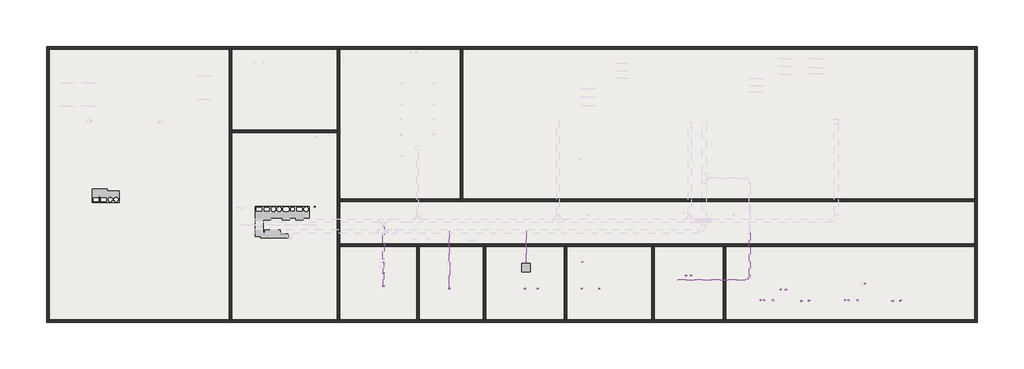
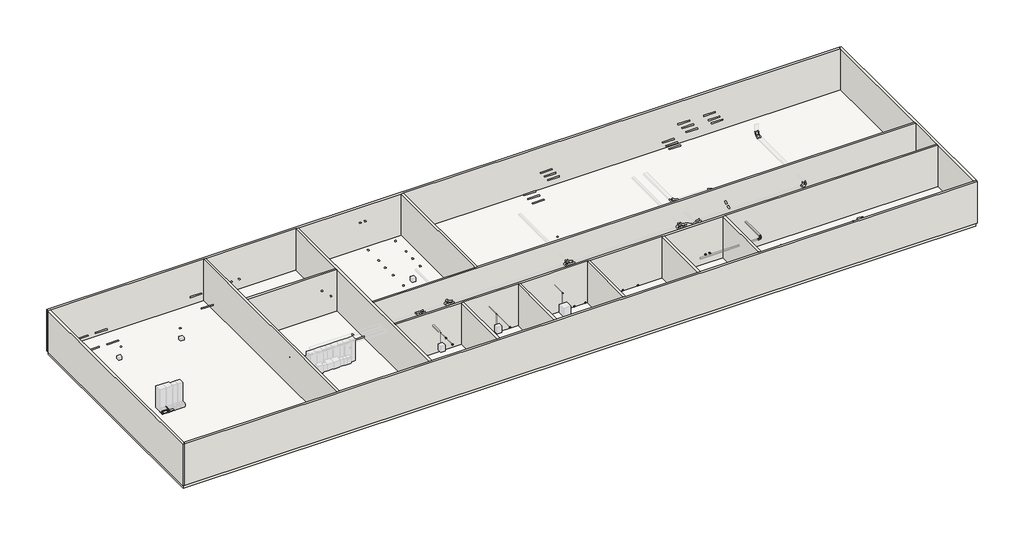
# One storey, part 1 of 3: 20 proxies, 15 walls, 13 cable carrier segments, 8 light fixtures, 6 cable carrier fittings, 2 slabs.
"""IFC4 building model written with IfcOpenShell, lengths in millimetres."""

from ifc_helpers import new_model, si_unit, point, frame, frame_2d, origin, origin_with_axes, place, context, project, spatial, polyline, circle_curve, trimmed, segment, composite_curve, outline, extrude, faceted_brep, transform, mapped, element, save
from components import electrical_fixtures_ff56aada, electrical_equipment_4f19a133, electrical_equipment_901cc76d, electrical_equipment_40f9489f, electrical_equipment_e4ef6d0d, cable_carrier_fitting_fe952dc1, cable_carrier_fitting_148b5de3, cable_carrier_fitting_304708ae, light_fixture_c5f3bd1a

model = new_model("IFC4")

# Units and contexts
model_context = context("Model", 3, world=origin())
ifc_project = project(units=[si_unit("LENGTHUNIT", "METRE", prefix="MILLI")], contexts=[model_context])

# Site, building, storey
site = spatial("IfcSite", under=ifc_project)
building = spatial("IfcBuilding", under=site)
storey = spatial("IfcBuildingStorey", under=building, Name="Координационный план", Elevation=0.0)

# Proxies
placement = place(None, origin())
electrical_fixtures_shape = electrical_fixtures_ff56aada(model_context)
element("IfcBuildingElementProxy", 1, Name="mS_EF_НГ_электроприбор : mS_EF_НГ_электроприбор", ObjectType="mS_EF_НГ_электроприбор : mS_EF_НГ_электроприбор", at=placement, inside=storey, context=model_context, shape_type="MappedRepresentation", body=[
    mapped(electrical_fixtures_shape, transform((11927.4238515, -3511.4109603, 2759.3582254), x_axis=(1.0, 0.0, 0.0), y_axis=(0.0, 1.0, 0.0), z_axis=(0.0, 0.0, 1.0))),
])
element("IfcBuildingElementProxy", 2, Name="mS_EF_НГ_электроприбор : mS_EF_НГ_электроприбор", ObjectType="mS_EF_НГ_электроприбор : mS_EF_НГ_электроприбор", at=placement, inside=storey, context=model_context, shape_type="MappedRepresentation", body=[
    mapped(electrical_fixtures_shape, transform((27368.0357375, -3709.1766246, 2712.088133), x_axis=(1.0, 0.0, 0.0), y_axis=(0.0, 1.0, 0.0), z_axis=(0.0, 0.0, 1.0))),
])
element("IfcBuildingElementProxy", 3, Name="mS_EF_НГ_электроприбор : mS_EF_НГ_электроприбор", ObjectType="mS_EF_НГ_электроприбор : mS_EF_НГ_электроприбор", at=placement, inside=storey, context=model_context, shape_type="MappedRepresentation", body=[
    mapped(electrical_fixtures_shape, transform((28728.1209837, -3709.1766246, 2712.088133), x_axis=(1.0, 0.0, 0.0), y_axis=(0.0, 1.0, 0.0), z_axis=(0.0, 0.0, 1.0))),
])
element("IfcBuildingElementProxy", 4, Name="mS_EF_НГ_электроприбор : mS_EF_НГ_электроприбор", ObjectType="mS_EF_НГ_электроприбор : mS_EF_НГ_электроприбор", at=placement, inside=storey, context=model_context, shape_type="MappedRepresentation", body=[
    mapped(electrical_fixtures_shape, transform((22938.0357375, -3709.1766246, 2712.088133), x_axis=(1.0, 0.0, 0.0), y_axis=(0.0, 1.0, 0.0), z_axis=(0.0, 0.0, 1.0))),
])
element("IfcBuildingElementProxy", 5, Name="mS_EF_НГ_электроприбор : mS_EF_НГ_электроприбор", ObjectType="mS_EF_НГ_электроприбор : mS_EF_НГ_электроприбор", at=placement, inside=storey, context=model_context, shape_type="MappedRepresentation", body=[
    mapped(electrical_fixtures_shape, transform((23938.0357375, -3709.1766246, 2712.088133), x_axis=(1.0, 0.0, 0.0), y_axis=(0.0, 1.0, 0.0), z_axis=(0.0, 0.0, 1.0))),
])
element("IfcBuildingElementProxy", 6, Name="mS_EF_НГ_электроприбор : mS_EF_НГ_электроприбор", ObjectType="mS_EF_НГ_электроприбор : mS_EF_НГ_электроприбор", at=placement, inside=storey, context=model_context, shape_type="MappedRepresentation", body=[
    mapped(electrical_fixtures_shape, transform((35478.7265783, -2689.4544344, 2700.0), x_axis=(1.0, 0.0, 0.0), y_axis=(0.0, 1.0, 0.0), z_axis=(0.0, 0.0, 1.0))),
])
element("IfcBuildingElementProxy", 7, Name="mS_EF_НГ_электроприбор : mS_EF_НГ_электроприбор", ObjectType="mS_EF_НГ_электроприбор : mS_EF_НГ_электроприбор", at=placement, inside=storey, context=model_context, shape_type="MappedRepresentation", body=[
    mapped(electrical_fixtures_shape, transform((35871.8542053, -2689.4544344, 2700.0), x_axis=(1.0, 0.0, 0.0), y_axis=(0.0, 1.0, 0.0), z_axis=(0.0, 0.0, 1.0))),
])
electrical_equipment_shape = electrical_equipment_4f19a133(model_context)
element("IfcBuildingElementProxy", 8, Name="▲EE_Уголок_стальной : 50х50х5_мм", ObjectType="▲EE_Уголок_стальной : 50х50х5_мм", at=placement, inside=storey, context=model_context, shape_type="MappedRepresentation", body=[
    mapped(electrical_equipment_shape, transform((-10774.8851164, 3459.0275541, 0.0), x_axis=(1.0, 0.0, 0.0), y_axis=(0.0, 1.0, 0.0), z_axis=(0.0, 0.0, 1.0))),
])
element("IfcBuildingElementProxy", 9, Name="▲EE_Уголок_стальной : 50х50х5_мм", ObjectType="▲EE_Уголок_стальной : 50х50х5_мм", at=placement, inside=storey, context=model_context, shape_type="MappedRepresentation", body=[
    mapped(electrical_equipment_shape, transform((-10624.8851164, 3009.0275541, 0.0), x_axis=(0.0, 1.0, 0.0), y_axis=(-1.0, 0.0, 0.0), z_axis=(0.0, 0.0, 1.0))),
])
electrical_equipment_2_shape = electrical_equipment_901cc76d(model_context)
element("IfcBuildingElementProxy", 10, Name="▲EE_Уголок_стальной : 50х50х5_мм", ObjectType="▲EE_Уголок_стальной : 50х50х5_мм", at=placement, inside=storey, context=model_context, shape_type="MappedRepresentation", body=[
    mapped(electrical_equipment_2_shape, transform((-10174.8851164, 3459.0275541, -150.0), x_axis=(-1.0, 0.0, 0.0), y_axis=(0.0, 0.0, -1.0), z_axis=(0.0, -1.0, 0.0))),
])
electrical_equipment_3_shape = electrical_equipment_40f9489f(model_context)
element("IfcBuildingElementProxy", 11, Name="▲EE_Уголок_стальной : 50х50х5_мм", ObjectType="▲EE_Уголок_стальной : 50х50х5_мм", at=placement, inside=storey, context=model_context, shape_type="MappedRepresentation", body=[
    mapped(electrical_equipment_3_shape, transform((-10774.8851164, 3009.0275541, 450.0), x_axis=(0.0, 1.0, 0.0), y_axis=(0.0, 0.0, 1.0), z_axis=(1.0, 0.0, 0.0))),
])
element("IfcBuildingElementProxy", 12, Name="▲EE_Уголок_стальной : 50х50х5_мм", ObjectType="▲EE_Уголок_стальной : 50х50х5_мм", at=placement, inside=storey, context=model_context, shape_type="MappedRepresentation", body=[
    mapped(electrical_equipment_3_shape, transform((-10774.8851164, 3459.0275541, 300.0), x_axis=(0.0, 0.0, -1.0), y_axis=(0.0, 1.0, 0.0), z_axis=(1.0, 0.0, 0.0))),
])
electrical_equipment_4_shape = electrical_equipment_e4ef6d0d(model_context)
element("IfcBuildingElementProxy", 13, Name="mS_EE_НГ_транзит : mS_EE_НГ_транзит", ObjectType="mS_EE_НГ_транзит : mS_EE_НГ_транзит", at=placement, inside=storey, context=model_context, shape_type="MappedRepresentation", body=[
    mapped(electrical_equipment_4_shape, transform((11927.4238515, -2489.9109603, 2784.3582254), x_axis=(1.0, 0.0, 0.0), y_axis=(0.0, 1.0, 0.0), z_axis=(0.0, 0.0, 1.0))),
])
element("IfcBuildingElementProxy", 14, Name="mS_EE_НГ_транзит : mS_EE_НГ_транзит", ObjectType="mS_EE_НГ_транзит : mS_EE_НГ_транзит", at=placement, inside=storey, context=model_context, shape_type="MappedRepresentation", body=[
    mapped(electrical_equipment_4_shape, transform((27407.4238515, -1629.9109603, 1800.0), x_axis=(-1.0, 0.0, 0.0), y_axis=(0.0, -1.0, 0.0), z_axis=(0.0, 0.0, 1.0))),
])
element("IfcBuildingElementProxy", 15, Name="mS_EF_НГ_электроприбор : mS_EF_НГ_электроприбор", ObjectType="mS_EF_НГ_электроприбор : mS_EF_НГ_электроприбор", at=placement, inside=storey, context=model_context, shape_type="MappedRepresentation", body=[
    mapped(electrical_fixtures_shape, transform((17058.0357375, -3711.3000564, 2739.1068779), x_axis=(1.0, 0.0, 0.0), y_axis=(0.0, 1.0, 0.0), z_axis=(0.0, 0.0, 1.0))),
])
element("IfcBuildingElementProxy", 16, Name="mS_EF_НГ_электроприбор : mS_EF_НГ_электроприбор", ObjectType="mS_EF_НГ_электроприбор : mS_EF_НГ_электроприбор", at=placement, inside=storey, context=model_context, shape_type="MappedRepresentation", body=[
    mapped(electrical_fixtures_shape, transform((41263.4826037, -4621.0432433, 2739.1068779), x_axis=(1.0, 0.0, 0.0), y_axis=(0.0, 1.0, 0.0), z_axis=(0.0, 0.0, 1.0))),
])
element("IfcBuildingElementProxy", 17, Name="mS_EF_НГ_электроприбор : mS_EF_НГ_электроприбор", ObjectType="mS_EF_НГ_электроприбор : mS_EF_НГ_электроприбор", at=placement, inside=storey, context=model_context, shape_type="MappedRepresentation", body=[
    mapped(electrical_fixtures_shape, transform((49420.4563703, -3313.3689698, 1764.4022853), x_axis=(1.0, 0.0, 0.0), y_axis=(0.0, 1.0, 0.0), z_axis=(0.0, 0.0, 1.0))),
])
element("IfcBuildingElementProxy", 18, Name="mS_EE_НГ_транзит : mS_EE_НГ_транзит", ObjectType="mS_EE_НГ_транзит : mS_EE_НГ_транзит", at=placement, inside=storey, context=model_context, shape_type="MappedRepresentation", body=[
    mapped(electrical_equipment_4_shape, transform((42863.4826037, -3783.3689698, 1800.0), x_axis=(-1.0, 0.0, 0.0), y_axis=(0.0, -1.0, 0.0), z_axis=(0.0, 0.0, 1.0))),
])
element("IfcBuildingElementProxy", 19, Name="mS_EE_НГ_транзит : mS_EE_НГ_транзит", ObjectType="mS_EE_НГ_транзит : mS_EE_НГ_транзит", at=placement, inside=storey, context=model_context, shape_type="MappedRepresentation", body=[
    mapped(electrical_equipment_4_shape, transform((43263.4826037, -3783.3689698, 1800.0), x_axis=(-1.0, 0.0, 0.0), y_axis=(0.0, -1.0, 0.0), z_axis=(0.0, 0.0, 1.0))),
])
element("IfcBuildingElementProxy", 20, Name="mS_EF_НГ_электроприбор : mS_EF_НГ_электроприбор", ObjectType="mS_EF_НГ_электроприбор : mS_EF_НГ_электроприбор", at=placement, inside=storey, context=model_context, shape_type="MappedRepresentation", body=[
    mapped(electrical_fixtures_shape, transform((47844.3312399, -4621.0432433, 2739.1068779), x_axis=(1.0, 0.0, 0.0), y_axis=(0.0, 1.0, 0.0), z_axis=(0.0, 0.0, 1.0))),
])

# Cable carrier fittings
cable_carrier_fitting_shape = cable_carrier_fitting_fe952dc1(model_context)
element("IfcCableCarrierFitting", 21, ObjectType="ADSK_Поворот_Минимальный размер : Неспецифицируемый", at=placement, inside=storey, context=model_context, shape_type="MappedRepresentation", body=[
    mapped(cable_carrier_fitting_shape, transform((17047.4238515, -1567.8177703, 2750.0), x_axis=(0.0, 0.0, 1.0), y_axis=(0.0, 1.0, 0.0), z_axis=(-1.0, 0.0, 0.0))),
])
element("IfcCableCarrierFitting", 22, ObjectType="ADSK_Поворот_Минимальный размер : Неспецифицируемый", at=placement, inside=storey, context=model_context, shape_type="MappedRepresentation", body=[
    mapped(cable_carrier_fitting_shape, transform((23031.9, -1614.91, 2731.025), x_axis=(0.0, 0.0, 1.0), y_axis=(0.0, 1.0, 0.0), z_axis=(-1.0, 0.0, 0.0))),
])
cable_carrier_fitting_2_shape = cable_carrier_fitting_148b5de3(model_context)
element("IfcCableCarrierFitting", 23, ObjectType="ADSK_Поворот_Минимальный размер : Неспецифицируемый", at=placement, inside=storey, context=model_context, shape_type="MappedRepresentation", body=[
    mapped(cable_carrier_fitting_2_shape, transform((17058.0357375, -1667.1653132, 2739.1068779), x_axis=(0.0, 1.0, 0.0), y_axis=(0.0, 0.0, -1.0), z_axis=(-1.0, 0.0, 0.0))),
])
element("IfcCableCarrierFitting", 24, ObjectType="ADSK_Поворот_Минимальный размер : Неспецифицируемый", at=placement, inside=storey, context=model_context, shape_type="MappedRepresentation", body=[
    mapped(cable_carrier_fitting_2_shape, transform((23038.0357375, -1692.119439, 2712.088133), x_axis=(0.0, 1.0, 0.0), y_axis=(0.0, 0.0, -1.0), z_axis=(-1.0, 0.0, 0.0))),
])
element("IfcCableCarrierFitting", 25, ObjectType="ADSK_Поворот_Минимальный размер : Неспецифицируемый", at=placement, inside=storey, context=model_context, shape_type="MappedRepresentation", body=[
    mapped(cable_carrier_fitting_2_shape, transform((11927.4238515, -1640.6183302, 2759.3582254), x_axis=(0.0, 1.0, 0.0), y_axis=(0.0, 0.0, -1.0), z_axis=(-1.0, 0.0, 0.0))),
])
cable_carrier_fitting_3_shape = cable_carrier_fitting_304708ae(model_context)
element("IfcCableCarrierFitting", 26, ObjectType="ADSK_Поворот горизонтальный_Лестничный лоток : Радиус 300 мм", at=placement, inside=storey, context=model_context, shape_type="MappedRepresentation", body=[
    mapped(cable_carrier_fitting_3_shape, transform((40449.7612457, -3035.4746616, 2750.0), x_axis=(1.0, 0.0, 0.0), y_axis=(0.0, 1.0, 0.0), z_axis=(0.0, 0.0, 1.0))),
])

# Cable carrier segments
element("IfcCableCarrierSegment", 27, ObjectType="ADSK_Перфорированный кабельный лоток", at=placement, inside=storey, context=model_context, shape_type="SweptSolid", body=[
    extrude(outline(polyline([(11873.8206275, 1125.0), (11973.8206275, 1125.0), (11973.8206275, -1454.911068), (11873.8206275, -1454.911068), (11873.8206275, 1125.0)])), frame((0.0, 0.0, 2700.0), z_axis=(0.0, 0.0, 1.0), x_axis=(1.0, 0.0, 0.0)), (0.0, 0.0, 1.0), 100.0),
])
element("IfcCableCarrierSegment", 28, ObjectType="ADSK_Гладкая труба_ПВХ_Легкая", at=placement, inside=storey, context=model_context, shape_type="SweptSolid", body=[
    extrude(outline(composite_curve([segment(trimmed(circle_curve(frame_2d((2750.0, 17047.4238515)), 12.5), [point((2750.0, 17059.9238515))], [point((2762.5, 17047.4238515))], False, "CARTESIAN"), True, "CONTINUOUS"), segment(trimmed(circle_curve(frame_2d((2750.0, 17047.4238515)), 12.5), [point((2762.5, 17047.4238515))], [point((2750.0, 17034.9238515))], False, "CARTESIAN"), True, "CONTINUOUS"), segment(trimmed(circle_curve(frame_2d((2750.0, 17047.4238515)), 12.5), [point((2750.0, 17034.9238515))], [point((2737.5, 17047.4238515))], False, "CARTESIAN"), True, "CONTINUOUS"), segment(trimmed(circle_curve(frame_2d((2750.0, 17047.4238515)), 12.5), [point((2737.5, 17047.4238515))], [point((2750.0, 17059.9238515))], False, "CARTESIAN"), True, "CONTINUOUS")], self_intersect=False)), frame((0.0, -1551.1427703, 0.0), z_axis=(0.0, 1.0, 0.0), x_axis=(0.0, 0.0, 1.0)), (0.0, 0.0, 1.0), 2318.325),
])
element("IfcCableCarrierSegment", 29, ObjectType="ADSK_Гладкая труба_ПВХ_Легкая", at=placement, inside=storey, context=model_context, shape_type="SweptSolid", body=[
    extrude(outline(composite_curve([segment(trimmed(circle_curve(frame_2d((17047.4238515, -1567.8177703)), 12.5), [point((17034.9238515, -1567.8177703))], [point((17047.4238515, -1555.3177703))], False, "CARTESIAN"), True, "CONTINUOUS"), segment(trimmed(circle_curve(frame_2d((17047.4238515, -1567.8177703)), 12.5), [point((17047.4238515, -1555.3177703))], [point((17059.9238515, -1567.8177703))], False, "CARTESIAN"), True, "CONTINUOUS"), segment(trimmed(circle_curve(frame_2d((17047.4238515, -1567.8177703)), 12.5), [point((17059.9238515, -1567.8177703))], [point((17047.4238515, -1580.3177703))], False, "CARTESIAN"), True, "CONTINUOUS"), segment(trimmed(circle_curve(frame_2d((17047.4238515, -1567.8177703)), 12.5), [point((17047.4238515, -1580.3177703))], [point((17034.9238515, -1567.8177703))], False, "CARTESIAN"), True, "CONTINUOUS")], self_intersect=False)), frame((0.0, 0.0, 1800.0), z_axis=(0.0, 0.0, 1.0), x_axis=(1.0, 0.0, 0.0)), (0.0, 0.0, 1.0), 933.325),
])
element("IfcCableCarrierSegment", 30, ObjectType="ADSK_Гладкая труба_ПВХ_Легкая", at=placement, inside=storey, context=model_context, shape_type="SweptSolid", body=[
    extrude(outline(composite_curve([segment(trimmed(circle_curve(frame_2d((23031.9, -1614.91)), 12.5), [point((23044.4, -1614.91))], [point((23031.9, -1627.41))], False, "CARTESIAN"), True, "CONTINUOUS"), segment(trimmed(circle_curve(frame_2d((23031.9, -1614.91)), 12.5), [point((23031.9, -1627.41))], [point((23019.4, -1614.91))], False, "CARTESIAN"), True, "CONTINUOUS"), segment(trimmed(circle_curve(frame_2d((23031.9, -1614.91)), 12.5), [point((23019.4, -1614.91))], [point((23031.9, -1602.41))], False, "CARTESIAN"), True, "CONTINUOUS"), segment(trimmed(circle_curve(frame_2d((23031.9, -1614.91)), 12.5), [point((23031.9, -1602.41))], [point((23044.4, -1614.91))], False, "CARTESIAN"), True, "CONTINUOUS")], self_intersect=False)), frame((0.0, 0.0, 1800.0), z_axis=(0.0, 0.0, 1.0), x_axis=(1.0, 0.0, 0.0)), (0.0, 0.0, 1.0), 914.35),
])
element("IfcCableCarrierSegment", 31, ObjectType="ADSK_Гладкая труба_ПВХ_Легкая", at=placement, inside=storey, context=model_context, shape_type="SweptSolid", body=[
    extrude(outline(composite_curve([segment(trimmed(circle_curve(frame_2d((2731.025, 23031.9)), 12.5), [point((2731.025, 23044.4))], [point((2743.525, 23031.9))], False, "CARTESIAN"), True, "CONTINUOUS"), segment(trimmed(circle_curve(frame_2d((2731.025, 23031.9)), 12.5), [point((2743.525, 23031.9))], [point((2731.025, 23019.4))], False, "CARTESIAN"), True, "CONTINUOUS"), segment(trimmed(circle_curve(frame_2d((2731.025, 23031.9)), 12.5), [point((2731.025, 23019.4))], [point((2718.525, 23031.9))], False, "CARTESIAN"), True, "CONTINUOUS"), segment(trimmed(circle_curve(frame_2d((2731.025, 23031.9)), 12.5), [point((2718.525, 23031.9))], [point((2731.025, 23044.4))], False, "CARTESIAN"), True, "CONTINUOUS")], self_intersect=False)), frame((0.0, -1598.235, 0.0), z_axis=(0.0, 1.0, 0.0), x_axis=(0.0, 0.0, 1.0)), (0.0, 0.0, 1.0), 2365.4172297),
])
element("IfcCableCarrierSegment", 32, ObjectType="ADSK_Гладкая труба_ПВХ_Легкая", at=placement, inside=storey, context=model_context, shape_type="SweptSolid", body=[
    extrude(outline(composite_curve([segment(trimmed(circle_curve(frame_2d((2739.1068779, 17058.0357375)), 10.0), [point((2739.1068779, 17068.0357375))], [point((2749.1068779, 17058.0357375))], False, "CARTESIAN"), True, "CONTINUOUS"), segment(trimmed(circle_curve(frame_2d((2739.1068779, 17058.0357375)), 10.0), [point((2749.1068779, 17058.0357375))], [point((2739.1068779, 17048.0357375))], False, "CARTESIAN"), True, "CONTINUOUS"), segment(trimmed(circle_curve(frame_2d((2739.1068779, 17058.0357375)), 10.0), [point((2739.1068779, 17048.0357375))], [point((2729.1068779, 17058.0357375))], False, "CARTESIAN"), True, "CONTINUOUS"), segment(trimmed(circle_curve(frame_2d((2739.1068779, 17058.0357375)), 10.0), [point((2729.1068779, 17058.0357375))], [point((2739.1068779, 17068.0357375))], False, "CARTESIAN"), True, "CONTINUOUS")], self_intersect=False)), frame((0.0, -3661.3000564, 0.0), z_axis=(0.0, 1.0, 0.0), x_axis=(0.0, 0.0, 1.0)), (0.0, 0.0, 1.0), 1979.9597432),
])
element("IfcCableCarrierSegment", 33, ObjectType="ADSK_Гладкая труба_ПВХ_Легкая", at=placement, inside=storey, context=model_context, shape_type="SweptSolid", body=[
    extrude(outline(composite_curve([segment(trimmed(circle_curve(frame_2d((17058.0357375, -1667.1653132)), 10.0), [point((17048.0357375, -1667.1653132))], [point((17058.0357375, -1657.1653132))], False, "CARTESIAN"), True, "CONTINUOUS"), segment(trimmed(circle_curve(frame_2d((17058.0357375, -1667.1653132)), 10.0), [point((17058.0357375, -1657.1653132))], [point((17068.0357375, -1667.1653132))], False, "CARTESIAN"), True, "CONTINUOUS"), segment(trimmed(circle_curve(frame_2d((17058.0357375, -1667.1653132)), 10.0), [point((17068.0357375, -1667.1653132))], [point((17058.0357375, -1677.1653132))], False, "CARTESIAN"), True, "CONTINUOUS"), segment(trimmed(circle_curve(frame_2d((17058.0357375, -1667.1653132)), 10.0), [point((17058.0357375, -1677.1653132))], [point((17048.0357375, -1667.1653132))], False, "CARTESIAN"), True, "CONTINUOUS")], self_intersect=False)), frame((0.0, 0.0, 1800.0), z_axis=(0.0, 0.0, 1.0), x_axis=(1.0, 0.0, 0.0)), (0.0, 0.0, 1.0), 924.9318779),
])
element("IfcCableCarrierSegment", 34, ObjectType="ADSK_Гладкая труба_ПВХ_Легкая", at=placement, inside=storey, context=model_context, shape_type="SweptSolid", body=[
    extrude(outline(composite_curve([segment(trimmed(circle_curve(frame_2d((23038.0357375, -1692.119439)), 10.0), [point((23028.0357375, -1692.119439))], [point((23038.0357375, -1682.119439))], False, "CARTESIAN"), True, "CONTINUOUS"), segment(trimmed(circle_curve(frame_2d((23038.0357375, -1692.119439)), 10.0), [point((23038.0357375, -1682.119439))], [point((23048.0357375, -1692.119439))], False, "CARTESIAN"), True, "CONTINUOUS"), segment(trimmed(circle_curve(frame_2d((23038.0357375, -1692.119439)), 10.0), [point((23048.0357375, -1692.119439))], [point((23038.0357375, -1702.119439))], False, "CARTESIAN"), True, "CONTINUOUS"), segment(trimmed(circle_curve(frame_2d((23038.0357375, -1692.119439)), 10.0), [point((23038.0357375, -1702.119439))], [point((23028.0357375, -1692.119439))], False, "CARTESIAN"), True, "CONTINUOUS")], self_intersect=False)), frame((0.0, 0.0, 1800.0), z_axis=(0.0, 0.0, 1.0), x_axis=(1.0, 0.0, 0.0)), (0.0, 0.0, 1.0), 897.913133),
])
element("IfcCableCarrierSegment", 35, ObjectType="ADSK_Гладкая труба_ПВХ_Легкая", at=placement, inside=storey, context=model_context, shape_type="SweptSolid", body=[
    extrude(outline(composite_curve([segment(trimmed(circle_curve(frame_2d((2759.3582254, 11927.4238515)), 10.0), [point((2759.3582254, 11937.4238515))], [point((2769.3582254, 11927.4238515))], False, "CARTESIAN"), True, "CONTINUOUS"), segment(trimmed(circle_curve(frame_2d((2759.3582254, 11927.4238515)), 10.0), [point((2769.3582254, 11927.4238515))], [point((2759.3582254, 11917.4238515))], False, "CARTESIAN"), True, "CONTINUOUS"), segment(trimmed(circle_curve(frame_2d((2759.3582254, 11927.4238515)), 10.0), [point((2759.3582254, 11917.4238515))], [point((2749.3582254, 11927.4238515))], False, "CARTESIAN"), True, "CONTINUOUS"), segment(trimmed(circle_curve(frame_2d((2759.3582254, 11927.4238515)), 10.0), [point((2749.3582254, 11927.4238515))], [point((2759.3582254, 11937.4238515))], False, "CARTESIAN"), True, "CONTINUOUS")], self_intersect=False)), frame((0.0, -3461.4109603, 0.0), z_axis=(0.0, 1.0, 0.0), x_axis=(0.0, 0.0, 1.0)), (0.0, 0.0, 1.0), 921.5),
])
element("IfcCableCarrierSegment", 36, ObjectType="ADSK_Гладкая труба_ПВХ_Легкая", at=placement, inside=storey, context=model_context, shape_type="SweptSolid", body=[
    extrude(outline(composite_curve([segment(trimmed(circle_curve(frame_2d((2759.3582254, 11927.4238515)), 10.0), [point((2759.3582254, 11937.4238515))], [point((2769.3582254, 11927.4238515))], False, "CARTESIAN"), True, "CONTINUOUS"), segment(trimmed(circle_curve(frame_2d((2759.3582254, 11927.4238515)), 10.0), [point((2769.3582254, 11927.4238515))], [point((2759.3582254, 11917.4238515))], False, "CARTESIAN"), True, "CONTINUOUS"), segment(trimmed(circle_curve(frame_2d((2759.3582254, 11927.4238515)), 10.0), [point((2759.3582254, 11917.4238515))], [point((2749.3582254, 11927.4238515))], False, "CARTESIAN"), True, "CONTINUOUS"), segment(trimmed(circle_curve(frame_2d((2759.3582254, 11927.4238515)), 10.0), [point((2749.3582254, 11927.4238515))], [point((2759.3582254, 11937.4238515))], False, "CARTESIAN"), True, "CONTINUOUS")], self_intersect=False)), frame((0.0, -2439.9109603, 0.0), z_axis=(0.0, 1.0, 0.0), x_axis=(0.0, 0.0, 1.0)), (0.0, 0.0, 1.0), 785.1176301),
])
element("IfcCableCarrierSegment", 37, ObjectType="ADSK_Гладкая труба_ПВХ_Легкая", at=placement, inside=storey, context=model_context, shape_type="SweptSolid", body=[
    extrude(outline(composite_curve([segment(trimmed(circle_curve(frame_2d((11927.4238515, -1640.6183302)), 10.0), [point((11917.4238515, -1640.6183302))], [point((11927.4238515, -1630.6183302))], False, "CARTESIAN"), True, "CONTINUOUS"), segment(trimmed(circle_curve(frame_2d((11927.4238515, -1640.6183302)), 10.0), [point((11927.4238515, -1630.6183302))], [point((11937.4238515, -1640.6183302))], False, "CARTESIAN"), True, "CONTINUOUS"), segment(trimmed(circle_curve(frame_2d((11927.4238515, -1640.6183302)), 10.0), [point((11937.4238515, -1640.6183302))], [point((11927.4238515, -1650.6183302))], False, "CARTESIAN"), True, "CONTINUOUS"), segment(trimmed(circle_curve(frame_2d((11927.4238515, -1640.6183302)), 10.0), [point((11927.4238515, -1650.6183302))], [point((11917.4238515, -1640.6183302))], False, "CARTESIAN"), True, "CONTINUOUS")], self_intersect=False)), frame((0.0, 0.0, 1800.0), z_axis=(0.0, 0.0, 1.0), x_axis=(1.0, 0.0, 0.0)), (0.0, 0.0, 1.0), 945.1832254),
])
element("IfcCableCarrierSegment", 38, ObjectType="ADSK_Перфорированный кабельный лоток", at=placement, inside=storey, context=model_context, shape_type="SweptSolid", body=[
    extrude(outline(polyline([(40399.7612457, 609.5505916), (40499.7612457, 609.5505916), (40499.7612457, -2675.4746616), (40399.7612457, -2675.4746616), (40399.7612457, 609.5505916)])), frame((0.0, 0.0, 2700.0), z_axis=(0.0, 0.0, 1.0), x_axis=(1.0, 0.0, 0.0)), (0.0, 0.0, 1.0), 100.0),
])
element("IfcCableCarrierSegment", 39, ObjectType="ADSK_Перфорированный кабельный лоток", at=placement, inside=storey, context=model_context, shape_type="SweptSolid", body=[
    extrude(outline(polyline([(40089.7612457, -2985.4746616), (40089.7612457, -3085.4746616), (34829.7612457, -3085.4746616), (34829.7612457, -2985.4746616), (40089.7612457, -2985.4746616)])), frame((0.0, 0.0, 2700.0), z_axis=(0.0, 0.0, 1.0), x_axis=(1.0, 0.0, 0.0)), (0.0, 0.0, 1.0), 100.0),
])

# Light fixtures
light_fixture_shape = light_fixture_c5f3bd1a(model_context)
element("IfcLightFixture", 40, ObjectType="LF_ОП_ТЛ : Solo_S10Вт", at=placement, inside=storey, context=model_context, shape_type="MappedRepresentation", body=[
    mapped(light_fixture_shape, transform((42253.4826037, -4627.6565815, 2500.0), x_axis=(1.0, 0.0, 0.0), y_axis=(0.0, 1.0, 0.0), z_axis=(0.0, 0.0, 1.0))),
])
element("IfcLightFixture", 41, ObjectType="LF_ОП_ТЛ : Solo_S10Вт", at=placement, inside=storey, context=model_context, shape_type="MappedRepresentation", body=[
    mapped(light_fixture_shape, transform((44464.2140063, -4674.6949766, 2500.0), x_axis=(1.0, 0.0, 0.0), y_axis=(0.0, 1.0, 0.0), z_axis=(0.0, 0.0, 1.0))),
])
element("IfcLightFixture", 42, ObjectType="LF_ОП_ТЛ : Solo_S10Вт", at=placement, inside=storey, context=model_context, shape_type="MappedRepresentation", body=[
    mapped(light_fixture_shape, transform((41553.4826037, -4627.6565815, 2500.0), x_axis=(1.0, 0.0, 0.0), y_axis=(0.0, 1.0, 0.0), z_axis=(0.0, 0.0, 1.0))),
])
element("IfcLightFixture", 43, ObjectType="LF_ОП_ТЛ : Solo_S10Вт", at=placement, inside=storey, context=model_context, shape_type="MappedRepresentation", body=[
    mapped(light_fixture_shape, transform((45064.2140063, -4657.2327454, 2500.0), x_axis=(1.0, 0.0, 0.0), y_axis=(0.0, 1.0, 0.0), z_axis=(0.0, 0.0, 1.0))),
])
element("IfcLightFixture", 44, ObjectType="LF_ОП_ТЛ : Solo_S10Вт", at=placement, inside=storey, context=model_context, shape_type="MappedRepresentation", body=[
    mapped(light_fixture_shape, transform((48834.3312399, -4627.6565815, 2500.0), x_axis=(1.0, 0.0, 0.0), y_axis=(0.0, 1.0, 0.0), z_axis=(0.0, 0.0, 1.0))),
])
element("IfcLightFixture", 45, ObjectType="LF_ОП_ТЛ : Solo_S10Вт", at=placement, inside=storey, context=model_context, shape_type="MappedRepresentation", body=[
    mapped(light_fixture_shape, transform((51581.6841438, -4674.6949766, 2500.0), x_axis=(1.0, 0.0, 0.0), y_axis=(0.0, 1.0, 0.0), z_axis=(0.0, 0.0, 1.0))),
])
element("IfcLightFixture", 46, ObjectType="LF_ОП_ТЛ : Solo_S10Вт", at=placement, inside=storey, context=model_context, shape_type="MappedRepresentation", body=[
    mapped(light_fixture_shape, transform((48134.3312399, -4627.6565815, 2500.0), x_axis=(1.0, 0.0, 0.0), y_axis=(0.0, 1.0, 0.0), z_axis=(0.0, 0.0, 1.0))),
])
element("IfcLightFixture", 47, ObjectType="LF_ОП_ТЛ : Solo_S10Вт", at=placement, inside=storey, context=model_context, shape_type="MappedRepresentation", body=[
    mapped(light_fixture_shape, transform((52181.6841438, -4657.2327454, 2500.0), x_axis=(1.0, 0.0, 0.0), y_axis=(0.0, 1.0, 0.0), z_axis=(0.0, 0.0, 1.0))),
])

# Slabs
element("IfcSlab", 48, ObjectType="Перекрытие", at=placement, inside=storey, context=model_context, shape_type="SweptSolid", body=[
    extrude(outline(polyline([(58078.3723635, 15068.4762745), (58078.3723635, -6231.5237255), (-14221.6276365, -6231.5237255), (-14221.6276365, 15068.4762745), (58078.3723635, 15068.4762745)])), frame((0.0, 0.0, -300.0), z_axis=(0.0, 0.0, 1.0), x_axis=(1.0, 0.0, 0.0)), (0.0, 0.0, 1.0), 300.0),
])
element("IfcSlab", 49, ObjectType="Перекрытие", at=placement, inside=storey, context=model_context, shape_type="SweptSolid", body=[
    extrude(outline(polyline([(58078.3723635, 15068.4762745), (58078.3723635, -6231.5237255), (-14221.6276365, -6231.5237255), (-14221.6276365, 15068.4762745), (58078.3723635, 15068.4762745)])), frame((0.0, 0.0, -300.0), z_axis=(0.0, 0.0, 1.0), x_axis=(1.0, 0.0, 0.0)), (0.0, 0.0, 1.0), 300.0),
])

# Walls
element("IfcWall", 50, ObjectType="Стена", at=placement, inside=storey, context=model_context, shape_type="Brep", body=[
    faceted_brep([(-14321.6276365, 14968.4762745, 0.0), (-14121.6276365, 14968.4762745, 0.0), (-100.0, 14968.4762745, 0.0), (100.0, 14968.4762745, 0.0), (8300.0, 14968.4762745, 0.0), (8500.0, 14968.4762745, 0.0), (17900.0, 14968.4762745, 0.0), (18100.0, 14968.4762745, 0.0), (57978.3723635, 14968.4762745, 0.0), (57978.3723635, 14968.4762745, 4000.0), (18100.0, 14968.4762745, 4000.0), (17900.0, 14968.4762745, 4000.0), (8500.0, 14968.4762745, 4000.0), (8300.0, 14968.4762745, 4000.0), (100.0, 14968.4762745, 4000.0), (-100.0, 14968.4762745, 4000.0), (-14121.6276365, 14968.4762745, 4000.0), (-14321.6276365, 14968.4762745, 4000.0), (-14321.6276365, 15168.4762745, 0.0), (-14321.6276365, 15168.4762745, 4000.0), (57978.3723635, 15168.4762745, 4000.0), (57978.3723635, 15168.4762745, 0.0)], [[[0, 1, 2, 3, 4, 5, 6, 7, 8, 9, 10, 11, 12, 13, 14, 15, 16, 17]], [[18, 19, 20, 21]], [[8, 7, 6, 5, 4, 3, 2, 1, 0, 18, 21]], [[17, 16, 15, 14, 13, 12, 11, 10, 9, 20, 19]], [[0, 17, 19, 18]], [[9, 8, 21, 20]]]),
])
element("IfcWall", 51, ObjectType="Стена", at=placement, inside=storey, context=model_context, shape_type="Brep", body=[
    faceted_brep([(-14121.6276365, -6331.5237255, 0.0), (-14121.6276365, -6131.5237255, 0.0), (-14121.6276365, 14968.4762745, 0.0), (-14121.6276365, 14968.4762745, 4000.0), (-14121.6276365, -6131.5237255, 4000.0), (-14121.6276365, -6331.5237255, 4000.0), (-14321.6276365, -6331.5237255, 0.0), (-14321.6276365, -6331.5237255, 4000.0), (-14321.6276365, 14968.4762745, 4000.0), (-14321.6276365, 14968.4762745, 0.0)], [[[0, 1, 2, 3, 4, 5]], [[6, 7, 8, 9]], [[2, 1, 0, 6, 9]], [[5, 4, 3, 8, 7]], [[0, 5, 7, 6]], [[3, 2, 9, 8]]]),
])
element("IfcWall", 52, ObjectType="Стена", at=placement, inside=storey, context=model_context, shape_type="Brep", body=[
    faceted_brep([(58178.3723635, -6131.5237255, 0.0), (57978.3723635, -6131.5237255, 0.0), (38566.7265783, -6131.5237255, 0.0), (38366.7265783, -6131.5237255, 0.0), (33000.0, -6131.5237255, 0.0), (32800.0, -6131.5237255, 0.0), (26200.0, -6131.5237255, 0.0), (26000.0, -6131.5237255, 0.0), (19900.0, -6131.5237255, 0.0), (19700.0, -6131.5237255, 0.0), (14700.0, -6131.5237255, 0.0), (14500.0, -6131.5237255, 0.0), (8500.0, -6131.5237255, 0.0), (8300.0, -6131.5237255, 0.0), (100.0, -6131.5237255, 0.0), (-100.0, -6131.5237255, 0.0), (-14121.6276365, -6131.5237255, 0.0), (-14121.6276365, -6131.5237255, 4000.0), (-100.0, -6131.5237255, 4000.0), (100.0, -6131.5237255, 4000.0), (8300.0, -6131.5237255, 4000.0), (8500.0, -6131.5237255, 4000.0), (14500.0, -6131.5237255, 4000.0), (14700.0, -6131.5237255, 4000.0), (19700.0, -6131.5237255, 4000.0), (19900.0, -6131.5237255, 4000.0), (26000.0, -6131.5237255, 4000.0), (26200.0, -6131.5237255, 4000.0), (32800.0, -6131.5237255, 4000.0), (33000.0, -6131.5237255, 4000.0), (38366.7265783, -6131.5237255, 4000.0), (38566.7265783, -6131.5237255, 4000.0), (57978.3723635, -6131.5237255, 4000.0), (58178.3723635, -6131.5237255, 4000.0), (58178.3723635, -6331.5237255, 0.0), (58178.3723635, -6331.5237255, 4000.0), (-14121.6276365, -6331.5237255, 4000.0), (-14121.6276365, -6331.5237255, 0.0)], [[[0, 1, 2, 3, 4, 5, 6, 7, 8, 9, 10, 11, 12, 13, 14, 15, 16, 17, 18, 19, 20, 21, 22, 23, 24, 25, 26, 27, 28, 29, 30, 31, 32, 33]], [[34, 35, 36, 37]], [[16, 15, 14, 13, 12, 11, 10, 9, 8, 7, 6, 5, 4, 3, 2, 1, 0, 34, 37]], [[33, 32, 31, 30, 29, 28, 27, 26, 25, 24, 23, 22, 21, 20, 19, 18, 17, 36, 35]], [[0, 33, 35, 34]], [[17, 16, 37, 36]]]),
])
element("IfcWall", 53, ObjectType="Стена", at=placement, inside=storey, context=model_context, shape_type="Brep", body=[
    faceted_brep([(57978.3723635, 15168.4762745, 0.0), (57978.3723635, 14968.4762745, 0.0), (57978.3723635, 3268.4762745, 0.0), (57978.3723635, 3068.4762745, 0.0), (57978.3723635, -231.5237255, 0.0), (57978.3723635, -431.5237255, 0.0), (57978.3723635, -6131.5237255, 0.0), (57978.3723635, -6131.5237255, 4000.0), (57978.3723635, -431.5237255, 4000.0), (57978.3723635, -231.5237255, 4000.0), (57978.3723635, 3068.4762745, 4000.0), (57978.3723635, 3268.4762745, 4000.0), (57978.3723635, 14968.4762745, 4000.0), (57978.3723635, 15168.4762745, 4000.0), (58178.3723635, 15168.4762745, 0.0), (58178.3723635, 15168.4762745, 4000.0), (58178.3723635, -6131.5237255, 4000.0), (58178.3723635, -6131.5237255, 0.0)], [[[0, 1, 2, 3, 4, 5, 6, 7, 8, 9, 10, 11, 12, 13]], [[14, 15, 16, 17]], [[6, 5, 4, 3, 2, 1, 0, 14, 17]], [[13, 12, 11, 10, 9, 8, 7, 16, 15]], [[0, 13, 15, 14]], [[7, 6, 17, 16]]]),
])
element("IfcWall", 54, ObjectType="Стена", at=placement, inside=storey, context=model_context, shape_type="Brep", body=[
    faceted_brep([(-100.0, 14968.4762745, 0.0), (-100.0, -6131.5237255, 0.0), (-100.0, -6131.5237255, 4000.0), (-100.0, 14968.4762745, 4000.0), (100.0, 14968.4762745, 0.0), (100.0, 14968.4762745, 4000.0), (100.0, 8668.4762745, 4000.0), (100.0, 8468.4762745, 4000.0), (100.0, -6131.5237255, 4000.0), (100.0, -6131.5237255, 0.0), (100.0, 8468.4762745, 0.0), (100.0, 8668.4762745, 0.0)], [[[0, 1, 2, 3]], [[4, 5, 6, 7, 8, 9, 10, 11]], [[1, 0, 4, 11, 10, 9]], [[3, 2, 8, 7, 6, 5]], [[0, 3, 5, 4]], [[2, 1, 9, 8]]]),
])
element("IfcWall", 55, ObjectType="Стена", at=placement, inside=storey, context=model_context, shape_type="SweptSolid", body=[
    extrude(outline(polyline([(8300.0, 8468.4762745), (100.0, 8468.4762745), (100.0, 8668.4762745), (8300.0, 8668.4762745), (8300.0, 8468.4762745)])), origin_with_axes(), (0.0, 0.0, 1.0), 4000.0),
])
element("IfcWall", 56, ObjectType="Стена", at=placement, inside=storey, context=model_context, shape_type="Brep", body=[
    faceted_brep([(8300.0, 14968.4762745, 0.0), (8300.0, 8668.4762745, 0.0), (8300.0, 8468.4762745, 0.0), (8300.0, -6131.5237255, 0.0), (8300.0, -6131.5237255, 4000.0), (8300.0, 8468.4762745, 4000.0), (8300.0, 8668.4762745, 4000.0), (8300.0, 14968.4762745, 4000.0), (8500.0, 14968.4762745, 0.0), (8500.0, 14968.4762745, 4000.0), (8500.0, 3268.4762745, 4000.0), (8500.0, 3068.4762745, 4000.0), (8500.0, -231.5237255, 4000.0), (8500.0, -431.5237255, 4000.0), (8500.0, -6131.5237255, 4000.0), (8500.0, -6131.5237255, 0.0), (8500.0, -431.5237255, 0.0), (8500.0, -231.5237255, 0.0), (8500.0, 3068.4762745, 0.0), (8500.0, 3268.4762745, 0.0)], [[[0, 1, 2, 3, 4, 5, 6, 7]], [[8, 9, 10, 11, 12, 13, 14, 15, 16, 17, 18, 19]], [[3, 2, 1, 0, 8, 19, 18, 17, 16, 15]], [[7, 6, 5, 4, 14, 13, 12, 11, 10, 9]], [[4, 3, 15, 14]], [[0, 7, 9, 8]]]),
])
element("IfcWall", 57, ObjectType="Стена", at=placement, inside=storey, context=model_context, shape_type="Brep", body=[
    faceted_brep([(8500.0, 3068.4762745, 0.0), (57978.3723635, 3068.4762745, 0.0), (57978.3723635, 3068.4762745, 4000.0), (8500.0, 3068.4762745, 4000.0), (8500.0, 3268.4762745, 0.0), (8500.0, 3268.4762745, 4000.0), (17900.0, 3268.4762745, 4000.0), (18100.0, 3268.4762745, 4000.0), (57978.3723635, 3268.4762745, 4000.0), (57978.3723635, 3268.4762745, 0.0), (18100.0, 3268.4762745, 0.0), (17900.0, 3268.4762745, 0.0)], [[[0, 1, 2, 3]], [[4, 5, 6, 7, 8, 9, 10, 11]], [[1, 0, 4, 11, 10, 9]], [[3, 2, 8, 7, 6, 5]], [[2, 1, 9, 8]], [[0, 3, 5, 4]]]),
])
element("IfcWall", 58, ObjectType="Стена", at=placement, inside=storey, context=model_context, shape_type="Brep", body=[
    faceted_brep([(8500.0, -431.5237255, 0.0), (14500.0, -431.5237255, 0.0), (14700.0, -431.5237255, 0.0), (19700.0, -431.5237255, 0.0), (19900.0, -431.5237255, 0.0), (26000.0, -431.5237255, 0.0), (26200.0, -431.5237255, 0.0), (32800.0, -431.5237255, 0.0), (33000.0, -431.5237255, 0.0), (38366.7265783, -431.5237255, 0.0), (38566.7265783, -431.5237255, 0.0), (57978.3723635, -431.5237255, 0.0), (57978.3723635, -431.5237255, 4000.0), (38566.7265783, -431.5237255, 4000.0), (38366.7265783, -431.5237255, 4000.0), (33000.0, -431.5237255, 4000.0), (32800.0, -431.5237255, 4000.0), (26200.0, -431.5237255, 4000.0), (26000.0, -431.5237255, 4000.0), (19900.0, -431.5237255, 4000.0), (19700.0, -431.5237255, 4000.0), (14700.0, -431.5237255, 4000.0), (14500.0, -431.5237255, 4000.0), (8500.0, -431.5237255, 4000.0), (8500.0, -231.5237255, 0.0), (8500.0, -231.5237255, 4000.0), (57978.3723635, -231.5237255, 4000.0), (57978.3723635, -231.5237255, 0.0)], [[[0, 1, 2, 3, 4, 5, 6, 7, 8, 9, 10, 11, 12, 13, 14, 15, 16, 17, 18, 19, 20, 21, 22, 23]], [[24, 25, 26, 27]], [[11, 10, 9, 8, 7, 6, 5, 4, 3, 2, 1, 0, 24, 27]], [[23, 22, 21, 20, 19, 18, 17, 16, 15, 14, 13, 12, 26, 25]], [[12, 11, 27, 26]], [[0, 23, 25, 24]]]),
])
element("IfcWall", 59, ObjectType="Стена", at=placement, inside=storey, context=model_context, shape_type="SweptSolid", body=[
    extrude(outline(polyline([(14500.0, -6131.5237255), (14500.0, -431.5237255), (14700.0, -431.5237255), (14700.0, -6131.5237255), (14500.0, -6131.5237255)])), origin_with_axes(), (0.0, 0.0, 1.0), 4000.0),
])
element("IfcWall", 60, ObjectType="Стена", at=placement, inside=storey, context=model_context, shape_type="SweptSolid", body=[
    extrude(outline(polyline([(19700.0, -6131.5237255), (19700.0, -431.5237255), (19900.0, -431.5237255), (19900.0, -6131.5237255), (19700.0, -6131.5237255)])), origin_with_axes(), (0.0, 0.0, 1.0), 4000.0),
])
element("IfcWall", 61, ObjectType="Стена", at=placement, inside=storey, context=model_context, shape_type="SweptSolid", body=[
    extrude(outline(polyline([(26000.0, -6131.5237255), (26000.0, -431.5237255), (26200.0, -431.5237255), (26200.0, -6131.5237255), (26000.0, -6131.5237255)])), origin_with_axes(), (0.0, 0.0, 1.0), 4000.0),
])
element("IfcWall", 62, ObjectType="Стена", at=placement, inside=storey, context=model_context, shape_type="SweptSolid", body=[
    extrude(outline(polyline([(32800.0, -6131.5237255), (32800.0, -431.5237255), (33000.0, -431.5237255), (33000.0, -6131.5237255), (32800.0, -6131.5237255)])), origin_with_axes(), (0.0, 0.0, 1.0), 4000.0),
])
element("IfcWall", 63, ObjectType="Стена", at=placement, inside=storey, context=model_context, shape_type="SweptSolid", body=[
    extrude(outline(polyline([(18100.0, 14968.4762745), (18100.0, 3268.4762745), (17900.0, 3268.4762745), (17900.0, 14968.4762745), (18100.0, 14968.4762745)])), origin_with_axes(), (0.0, 0.0, 1.0), 4000.0),
])
element("IfcWall", 64, ObjectType="Стена", at=placement, inside=storey, context=model_context, shape_type="SweptSolid", body=[
    extrude(outline(polyline([(38366.7265783, -6131.5237255), (38366.7265783, -431.5237255), (38566.7265783, -431.5237255), (38566.7265783, -6131.5237255), (38366.7265783, -6131.5237255)])), origin_with_axes(), (0.0, 0.0, 1.0), 4000.0),
])

save(model, "model.ifc")
